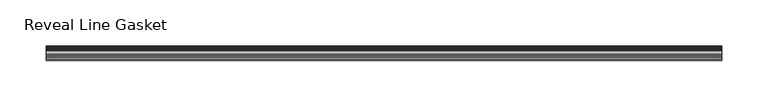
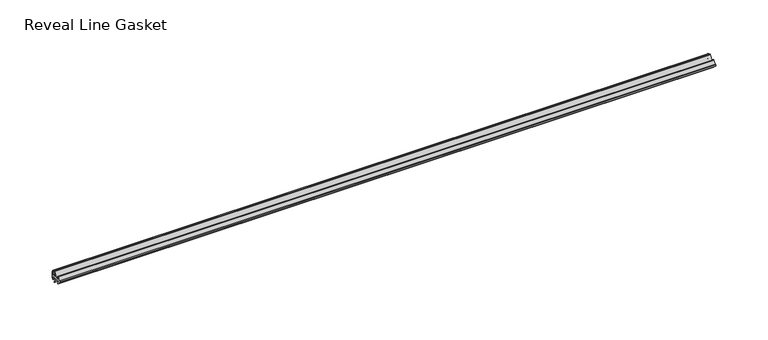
"""IFC4 building model written with IfcOpenShell, lengths in millimetres: proxy geometry, Accessories-Teknion-FHGR-AI_Healthcare-Reveal_Line_Gasket(Horizontal)-R2022 : Reveal Line Gasket."""

from ifc_helpers import new_model, si_unit, point, frame, frame_2d, origin, place, context, project, spatial, polyline, circle_curve, trimmed, segment, composite_curve, outline, extrude, source, transform, mapped, element, save


def reveal_line_gasket_f21bf524(model_context):
    return source(origin(), model_context, "Body", "SweptSolid", [
        extrude(outline(composite_curve([segment(polyline([(7.6326998, 1603.2), (7.6326998, 1597.2), (7.4091917, 1596.2445073), (6.8813059, 1595.3115316)]), True, "CONTINUOUS"), segment(trimmed(circle_curve(frame_2d((6.5243141, 1595.5135207)), 0.4101739), [point((6.8813059, 1595.3115316))], [point((6.1246704, 1595.6058653))], False, "CARTESIAN"), True, "CONTINUOUS"), segment(polyline([(6.1246704, 1595.6058653), (6.3626997, 1597.3020914), (6.3626997, 1599.3345473)]), True, "CONTINUOUS"), segment(trimmed(circle_curve(frame_2d((5.6959605, 1598.9180742)), 0.786124), [point((6.3626997, 1599.3345473))], [point((5.0926996, 1599.422125))], True, "CARTESIAN"), True, "CONTINUOUS"), segment(polyline([(5.0926996, 1599.422125), (0.7492996, 1599.422125), (3.7293824, 1594.2604705)]), True, "CONTINUOUS"), segment(trimmed(circle_curve(frame_2d((3.3132479, 1594.1950239)), 0.4212495), [point((3.7293824, 1594.2604705))], [point((3.0485022, 1593.8673642))], False, "CARTESIAN"), True, "CONTINUOUS"), segment(polyline([(3.0485022, 1593.8673642), (-0.5742594, 1599.422125), (-4.8262978, 1599.422125), (-3.1660374, 1596.5464703)]), True, "CONTINUOUS"), segment(trimmed(circle_curve(frame_2d((-3.5978728, 1596.4881145)), 0.4357605), [point((-3.1660374, 1596.5464703))], [point((-3.864328, 1596.1433119))], False, "CARTESIAN"), True, "CONTINUOUS"), segment(polyline([(-3.864328, 1596.1433119), (-6.1944059, 1599.422125), (-7.6326998, 1599.422125), (-7.6326998, 1600.977875), (-6.1944059, 1600.977875), (-3.864328, 1604.2566881)]), True, "CONTINUOUS"), segment(trimmed(circle_curve(frame_2d((-3.5978728, 1603.9118855)), 0.4357605), [point((-3.864328, 1604.2566881))], [point((-3.1660374, 1603.8535297))], False, "CARTESIAN"), True, "CONTINUOUS"), segment(polyline([(-3.1660374, 1603.8535297), (-4.8262978, 1600.977875), (-0.5742594, 1600.977875), (3.0485022, 1606.5326358)]), True, "CONTINUOUS"), segment(trimmed(circle_curve(frame_2d((3.3132479, 1606.2049761)), 0.4212495), [point((3.0485022, 1606.5326358))], [point((3.7293824, 1606.1395295))], False, "CARTESIAN"), True, "CONTINUOUS"), segment(polyline([(3.7293824, 1606.1395295), (0.7492996, 1600.977875), (5.0926996, 1600.977875)]), True, "CONTINUOUS"), segment(trimmed(circle_curve(frame_2d((5.6959605, 1601.4819258)), 0.786124), [point((5.0926996, 1600.977875))], [point((6.3626997, 1601.0654527))], True, "CARTESIAN"), True, "CONTINUOUS"), segment(polyline([(6.3626997, 1601.0654527), (6.3626997, 1603.0979086), (6.1246704, 1604.7941347)]), True, "CONTINUOUS"), segment(trimmed(circle_curve(frame_2d((6.5243141, 1604.8864793)), 0.4101739), [point((6.1246704, 1604.7941347))], [point((6.8813059, 1605.0884684))], False, "CARTESIAN"), True, "CONTINUOUS"), segment(polyline([(6.8813059, 1605.0884684), (7.4091917, 1604.1554927), (7.6326998, 1603.2)]), True, "CONTINUOUS")], self_intersect=False)), frame((-363.2454, 0.0, 0.0), z_axis=(1.0, 0.0, 0.0), x_axis=(0.0, 1.0, 0.0)), (0.0, 0.0, 1.0), 726.4908),
    ])


if __name__ == "__main__":
    model = new_model("IFC4")
    model_context = context("Model", 3, world=origin())
    ifc_project = project(units=[si_unit("LENGTHUNIT", "METRE", prefix="MILLI")], contexts=[model_context])
    site = spatial("IfcSite", under=ifc_project)
    building = spatial("IfcBuilding", under=site)
    placement = place(None, origin())
    reveal_line_gasket_shape = reveal_line_gasket_f21bf524(model_context)
    element("IfcBuildingElementProxy", 1, Name="Accessories-Teknion-FHGR-AI_Healthcare-Reveal_Line_Gasket(Horizontal)-R2022 : Reveal Line Gasket", ObjectType="Accessories-Teknion-FHGR-AI_Healthcare-Reveal_Line_Gasket(Horizontal)-R2022 : Reveal Line Gasket", at=placement, inside=building, context=model_context, shape_type="MappedRepresentation", body=[
        mapped(reveal_line_gasket_shape, transform((0.0, 0.0, 0.0), x_axis=(1.0, 0.0, 0.0), y_axis=(0.0, 1.0, 0.0), z_axis=(0.0, 0.0, 1.0))),
    ])
    save(model, "model.ifc")
